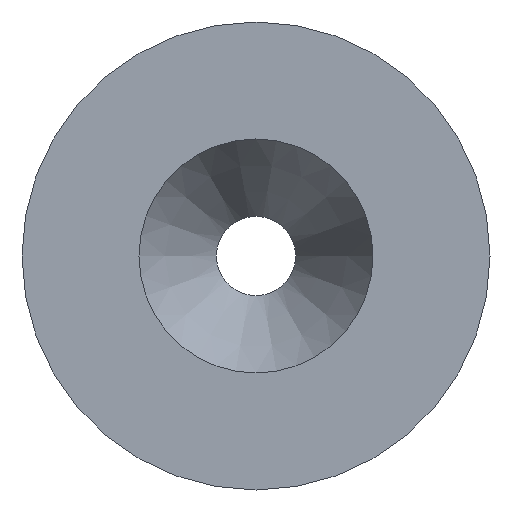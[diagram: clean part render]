
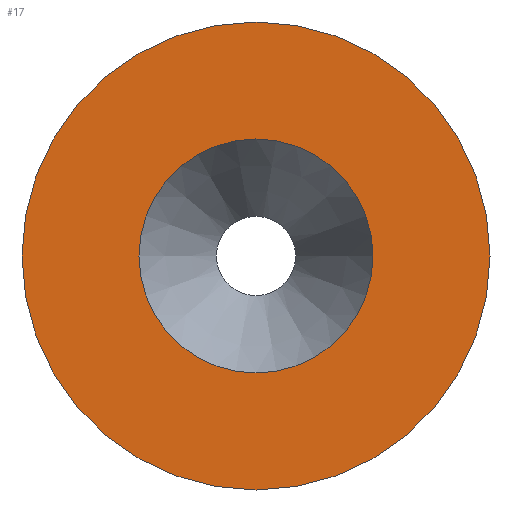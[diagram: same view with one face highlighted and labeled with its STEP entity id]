
A CAD part, front view. The second image highlights one B-rep face of the part: STEP entity #17.
In plain terms, the highlighted planar face has unit normal (0, -1, 0).
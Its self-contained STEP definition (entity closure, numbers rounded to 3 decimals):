
#17 = ADVANCED_FACE('',(#18,#54),#31,.F.);
#18 = FACE_BOUND('',#19,.T.);
#19 = EDGE_LOOP('',(#20));
#20 = ORIENTED_EDGE('',*,*,#21,.T.);
#21 = EDGE_CURVE('',#22,#22,#24,.T.);
#22 = VERTEX_POINT('',#23);
#23 = CARTESIAN_POINT('',(30.,0.,0.));
#24 = SURFACE_CURVE('',#25,(#30,#42),.PCURVE_S1.);
#25 = CIRCLE('',#26,30.);
#26 = AXIS2_PLACEMENT_3D('',#27,#28,#29);
#27 = CARTESIAN_POINT('',(0.,0.,0.));
#28 = DIRECTION('',(-0.,1.,0.));
#29 = DIRECTION('',(1.,0.,0.));
#30 = PCURVE('',#31,#36);
#31 = PLANE('',#32);
#32 = AXIS2_PLACEMENT_3D('',#33,#34,#35);
#33 = CARTESIAN_POINT('',(0.,0.,0.));
#34 = DIRECTION('',(0.,1.,0.));
#35 = DIRECTION('',(1.,0.,0.));
#36 = DEFINITIONAL_REPRESENTATION('',(#37),#41);
#37 = CIRCLE('',#38,30.);
#38 = AXIS2_PLACEMENT_2D('',#39,#40);
#39 = CARTESIAN_POINT('',(0.,0.));
#40 = DIRECTION('',(1.,-0.));
#41 = ( GEOMETRIC_REPRESENTATION_CONTEXT(2) 
PARAMETRIC_REPRESENTATION_CONTEXT() REPRESENTATION_CONTEXT('2D SPACE',''
  ) );
#42 = PCURVE('',#43,#48);
#43 = CONICAL_SURFACE('',#44,10.14,0.524);
#44 = AXIS2_PLACEMENT_3D('',#45,#46,#47);
#45 = CARTESIAN_POINT('',(0.,34.399,0.));
#46 = DIRECTION('',(-0.,-1.,-0.));
#47 = DIRECTION('',(1.,-0.,0.));
#48 = DEFINITIONAL_REPRESENTATION('',(#49),#53);
#49 = LINE('',#50,#51);
#50 = CARTESIAN_POINT('',(-0.,34.399));
#51 = VECTOR('',#52,1.);
#52 = DIRECTION('',(-1.,0.));
#53 = ( GEOMETRIC_REPRESENTATION_CONTEXT(2) 
PARAMETRIC_REPRESENTATION_CONTEXT() REPRESENTATION_CONTEXT('2D SPACE',''
  ) );
#54 = FACE_BOUND('',#55,.T.);
#55 = EDGE_LOOP('',(#56));
#56 = ORIENTED_EDGE('',*,*,#57,.F.);
#57 = EDGE_CURVE('',#58,#58,#60,.T.);
#58 = VERTEX_POINT('',#59);
#59 = CARTESIAN_POINT('',(60.,0.,0.));
#60 = SURFACE_CURVE('',#61,(#66,#73),.PCURVE_S1.);
#61 = CIRCLE('',#62,60.);
#62 = AXIS2_PLACEMENT_3D('',#63,#64,#65);
#63 = CARTESIAN_POINT('',(0.,0.,0.));
#64 = DIRECTION('',(-0.,1.,0.));
#65 = DIRECTION('',(1.,0.,0.));
#66 = PCURVE('',#31,#67);
#67 = DEFINITIONAL_REPRESENTATION('',(#68),#72);
#68 = CIRCLE('',#69,60.);
#69 = AXIS2_PLACEMENT_2D('',#70,#71);
#70 = CARTESIAN_POINT('',(0.,0.));
#71 = DIRECTION('',(1.,-0.));
#72 = ( GEOMETRIC_REPRESENTATION_CONTEXT(2) 
PARAMETRIC_REPRESENTATION_CONTEXT() REPRESENTATION_CONTEXT('2D SPACE',''
  ) );
#73 = PCURVE('',#74,#79);
#74 = CYLINDRICAL_SURFACE('',#75,60.);
#75 = AXIS2_PLACEMENT_3D('',#76,#77,#78);
#76 = CARTESIAN_POINT('',(0.,0.,0.));
#77 = DIRECTION('',(0.,1.,0.));
#78 = DIRECTION('',(1.,0.,0.));
#79 = DEFINITIONAL_REPRESENTATION('',(#80),#84);
#80 = LINE('',#81,#82);
#81 = CARTESIAN_POINT('',(0.,0.));
#82 = VECTOR('',#83,1.);
#83 = DIRECTION('',(1.,0.));
#84 = ( GEOMETRIC_REPRESENTATION_CONTEXT(2) 
PARAMETRIC_REPRESENTATION_CONTEXT() REPRESENTATION_CONTEXT('2D SPACE',''
  ) );
